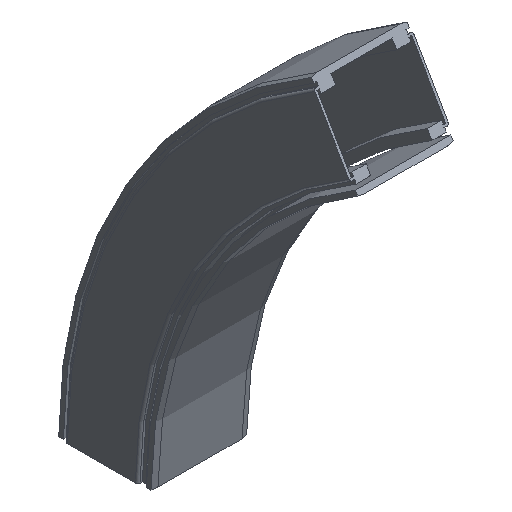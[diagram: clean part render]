
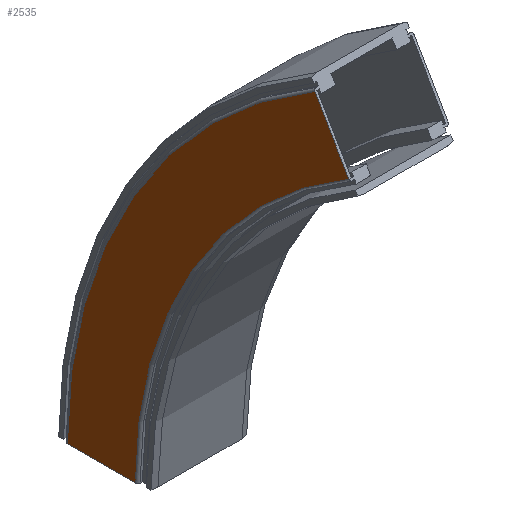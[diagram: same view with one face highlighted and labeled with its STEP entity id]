
A CAD part, isometric view. The second image highlights one B-rep face of the part: STEP entity #2535.
In plain terms, the highlighted planar face has unit normal (-1, 0, 0).
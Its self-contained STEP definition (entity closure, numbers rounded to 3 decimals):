
#2475=CARTESIAN_POINT('',(-43.0,-183.25,320.862));
#2476=VERTEX_POINT('',#2475);
#2484=CARTESIAN_POINT('',(-43.0,2.,0.0));
#2485=VERTEX_POINT('',#2484);
#2486=CARTESIAN_POINT('',(-43.0,-368.5,0.));
#2487=DIRECTION('',(1.0,0.0,0.0));
#2488=DIRECTION('',(0.0,1.0,0.0));
#2489=AXIS2_PLACEMENT_3D('',#2486,#2487,#2488);
#2490=CIRCLE('',#2489,370.5);
#2491=EDGE_CURVE('',#2485,#2476,#2490,.T.);
#2504=CARTESIAN_POINT('',(-43.0,31.5,0.0));
#2505=DIRECTION('',(-1.0,0.0,0.0));
#2506=DIRECTION('',(0.0,0.0,1.0));
#2507=AXIS2_PLACEMENT_3D('',#2504,#2505,#2506);
#2508=PLANE('',#2507);
#2509=CARTESIAN_POINT('',(-43.0,-153.75,371.958));
#2510=VERTEX_POINT('',#2509);
#2511=CARTESIAN_POINT('',(-43.0,-183.25,320.862));
#2512=DIRECTION('',(0.0,0.5,0.866));
#2513=VECTOR('',#2512,59.);
#2514=LINE('',#2511,#2513);
#2515=EDGE_CURVE('',#2476,#2510,#2514,.T.);
#2516=ORIENTED_EDGE('',*,*,#2515,.T.);
#2517=CARTESIAN_POINT('',(-43.0,61.0,0.0));
#2518=VERTEX_POINT('',#2517);
#2519=CARTESIAN_POINT('',(-43.0,-368.5,0.));
#2520=DIRECTION('',(1.0,0.0,0.0));
#2521=DIRECTION('',(0.0,1.0,0.0));
#2522=AXIS2_PLACEMENT_3D('',#2519,#2520,#2521);
#2523=CIRCLE('',#2522,429.5);
#2524=EDGE_CURVE('',#2518,#2510,#2523,.T.);
#2525=ORIENTED_EDGE('',*,*,#2524,.F.);
#2526=CARTESIAN_POINT('',(-43.0,61.0,0.0));
#2527=DIRECTION('',(0.0,-1.0,0.0));
#2528=VECTOR('',#2527,59.0);
#2529=LINE('',#2526,#2528);
#2530=EDGE_CURVE('',#2518,#2485,#2529,.T.);
#2531=ORIENTED_EDGE('',*,*,#2530,.T.);
#2532=ORIENTED_EDGE('',*,*,#2491,.T.);
#2533=EDGE_LOOP('',(#2516,#2525,#2531,#2532));
#2534=FACE_OUTER_BOUND('',#2533,.T.);
#2535=ADVANCED_FACE('',(#2534),#2508,.T.);
